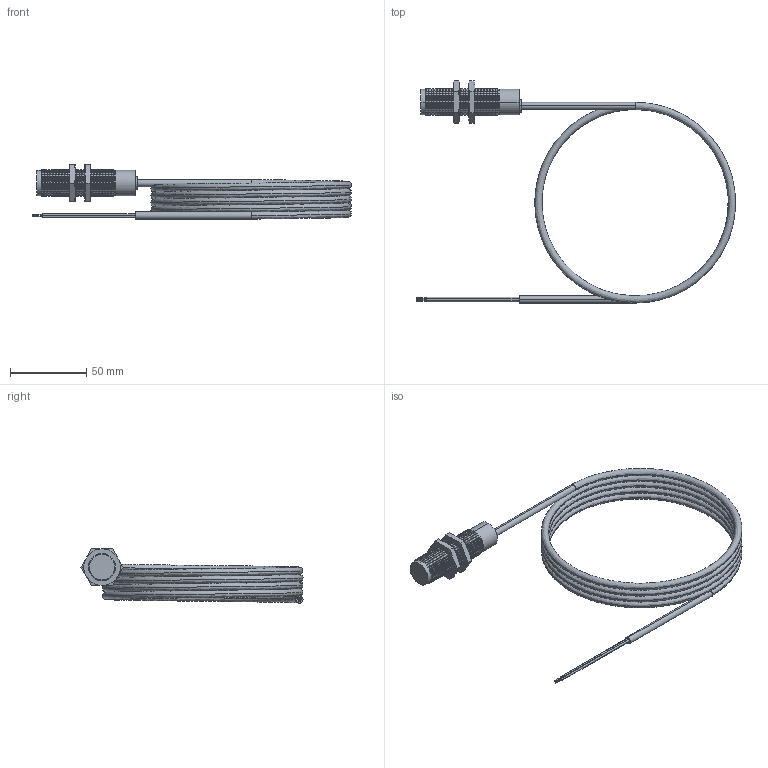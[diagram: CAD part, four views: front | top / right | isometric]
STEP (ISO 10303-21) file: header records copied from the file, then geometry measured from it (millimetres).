
FILE_DESCRIPTION (( 'STEP AP203' ), '1' );
FILE_NAME ('90-XXXX-037.STEP', '2015-08-31T03:38:37', ( 'Sam' ), ( 'Spade' ), 'SwSTEP 2.0', 'SolidWorks 2002296', '' );
FILE_SCHEMA (( 'CONFIG_CONTROL_DESIGN' ));
Length unit declared in the file: inch
Products named in the file (15): 90-XXXX-037; Imported203; Imported204; Imported202; Imported208; Imported210; Imported209; Imported205; Imported207; Imported206; Imported212; Imported211; Imported214; Imported213; Imported215
Assembly tree (14 placements, depth 2):
  90-XXXX-037
    Imported211
    Imported208
    Imported214
    Imported203
    Imported205
    Imported213
    Imported210
    Imported212
    Imported215
    Imported209
    Imported204
    Imported202
    Imported206
    Imported207
Bounding box: 209.36 x 145.73 x 35.6 mm (x, y, z)
Volume: 52821.2 mm3; surface area: 39090 mm2
Topology: 14 solids, 14 shells, 437 faces, 1002 edges, 600 vertices
Faces by surface type: cone 254, cylinder 126, plane 47, bspline 10
Entity records: 15703 total; most frequent: CARTESIAN_POINT 3932, DIRECTION 2392, ORIENTED_EDGE 2004, AXIS2_PLACEMENT_3D 1012, EDGE_CURVE 1002, VERTEX_POINT 600, CIRCLE 568, EDGE_LOOP 448
